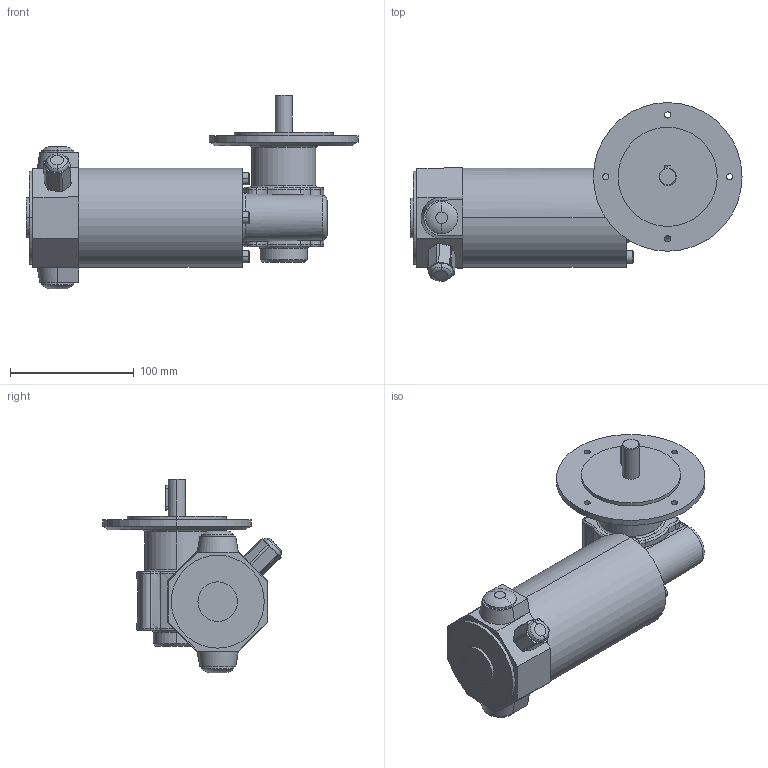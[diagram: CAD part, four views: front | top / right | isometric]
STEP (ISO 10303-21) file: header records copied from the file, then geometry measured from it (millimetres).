
FILE_DESCRIPTION(('OneSpaceDesigner STEP Export'),'2;1');
FILE_NAME('EPG13_GF131-10.stp','2008-07-10T 7:57:08',(''),(''),'OneSpace Designer STEP processor (Jan. 2003) for AP214(CD)(Solid Model)','OneSpace Designer 12.01D 09-Jul-2004 (C) CoCreate Software GmbH','');
FILE_SCHEMA(('AUTOMOTIVE_DESIGN_CC2 {1 2 10303 214 -1 1 5 1}'));
Length unit declared in the file: millimetre
Products named in the file (2): EPG13_GF131-10
Assembly tree (1 placements, depth 2):
  EPG13_GF131-10
    EPG13_GF131-10
Bounding box: 268 x 144.4 x 156.5 mm (x, y, z)
Volume: 1329660.7 mm3; surface area: 106983.8 mm2
Topology: 1 solids, 1 shells, 194 faces, 486 edges, 310 vertices
Faces by surface type: plane 52, cylinder 50, bspline 41, extrusion 25, torus 14, cone 12
Entity records: 16645 total; most frequent: CARTESIAN_POINT 12750, ORIENTED_EDGE 972, DIRECTION 516, EDGE_CURVE 486, VERTEX_POINT 310, EDGE_LOOP 218, FACE_OUTER_BOUND 194, ADVANCED_FACE 194
